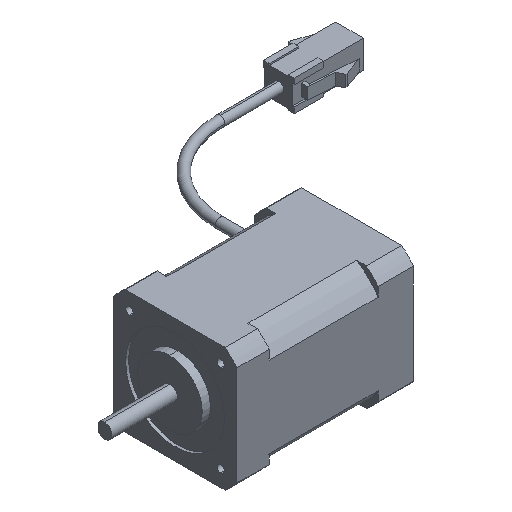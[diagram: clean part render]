
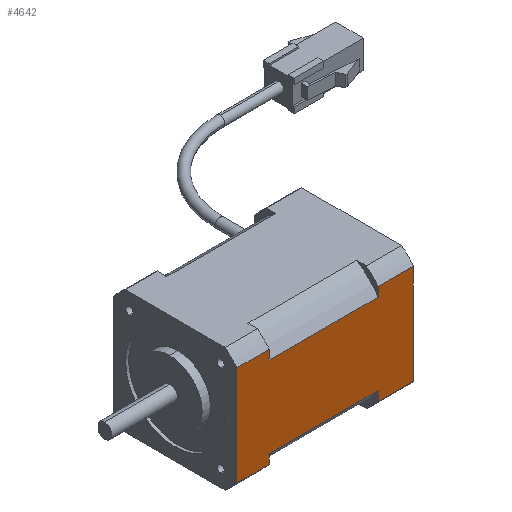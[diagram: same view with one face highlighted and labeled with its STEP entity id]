
A CAD part, isometric view. The second image highlights one B-rep face of the part: STEP entity #4642.
In plain terms, the highlighted planar face has unit normal (0, -1, 0).
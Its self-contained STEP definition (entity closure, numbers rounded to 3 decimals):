
#12 = LINE ( 'NONE', #1259, #6427 ) ;
#28 = CARTESIAN_POINT ( 'NONE',  ( 7.234, 0., 12. ) ) ;
#37 = CARTESIAN_POINT ( 'NONE',  ( 4.029, 0., 60. ) ) ;
#112 = LINE ( 'NONE', #2748, #3316 ) ;
#159 = ORIENTED_EDGE ( 'NONE', *, *, #840, .F. ) ;
#270 = DIRECTION ( 'NONE',  ( 1., 0., 0. ) ) ;
#344 = CARTESIAN_POINT ( 'NONE',  ( 4.029, 0., 49. ) ) ;
#401 = VECTOR ( 'NONE', #1610, 1000. ) ;
#840 = EDGE_CURVE ( 'NONE', #6238, #6813, #5917, .T. ) ;
#851 = EDGE_CURVE ( 'NONE', #6238, #6255, #7185, .T. ) ;
#950 = EDGE_CURVE ( 'NONE', #6255, #4782, #3862, .T. ) ;
#968 = VERTEX_POINT ( 'NONE', #6111 ) ;
#1006 = EDGE_CURVE ( 'NONE', #1549, #4782, #4500, .T. ) ;
#1053 = EDGE_CURVE ( 'NONE', #5946, #1549, #5657, .T. ) ;
#1090 = VECTOR ( 'NONE', #7034, 1000. ) ;
#1193 = CARTESIAN_POINT ( 'NONE',  ( 4.029, 0., 12. ) ) ;
#1202 = EDGE_CURVE ( 'NONE', #968, #5946, #3039, .T. ) ;
#1259 = CARTESIAN_POINT ( 'NONE',  ( 4.029, 0., 60. ) ) ;
#1315 = EDGE_CURVE ( 'NONE', #968, #5442, #5207, .T. ) ;
#1347 = DIRECTION ( 'NONE',  ( 0., 0., -1. ) ) ;
#1416 = EDGE_CURVE ( 'NONE', #4419, #5442, #112, .T. ) ;
#1505 = VERTEX_POINT ( 'NONE', #2228 ) ;
#1549 = VERTEX_POINT ( 'NONE', #1798 ) ;
#1567 = EDGE_CURVE ( 'NONE', #2055, #4419, #2016, .T. ) ;
#1602 = ORIENTED_EDGE ( 'NONE', *, *, #1712, .T. ) ;
#1610 = DIRECTION ( 'NONE',  ( 1., 0., 0. ) ) ;
#1624 = EDGE_CURVE ( 'NONE', #2055, #1505, #12, .T. ) ;
#1658 = CARTESIAN_POINT ( 'NONE',  ( 34.766, 0., 12. ) ) ;
#1712 = EDGE_CURVE ( 'NONE', #1505, #3697, #4970, .T. ) ;
#1730 = ORIENTED_EDGE ( 'NONE', *, *, #950, .T. ) ;
#1760 = EDGE_CURVE ( 'NONE', #6813, #3697, #4429, .T. ) ;
#1798 = CARTESIAN_POINT ( 'NONE',  ( 37.971, 0., 12. ) ) ;
#1859 = CARTESIAN_POINT ( 'NONE',  ( 4.029, 0., 60. ) ) ;
#1929 = VECTOR ( 'NONE', #6282, 1000. ) ;
#2016 = LINE ( 'NONE', #1859, #401 ) ;
#2055 = VERTEX_POINT ( 'NONE', #37 ) ;
#2228 = CARTESIAN_POINT ( 'NONE',  ( 4.029, 0., 49. ) ) ;
#2240 = ORIENTED_EDGE ( 'NONE', *, *, #1416, .F. ) ;
#2490 = ORIENTED_EDGE ( 'NONE', *, *, #1567, .F. ) ;
#2730 = DIRECTION ( 'NONE',  ( 0., 0., -1. ) ) ;
#2747 = ORIENTED_EDGE ( 'NONE', *, *, #1760, .F. ) ;
#2748 = CARTESIAN_POINT ( 'NONE',  ( 37.971, 0., 60. ) ) ;
#2872 = VECTOR ( 'NONE', #7004, 1000. ) ;
#2899 = VECTOR ( 'NONE', #7104, 1000. ) ;
#3010 = CARTESIAN_POINT ( 'NONE',  ( 7.234, 0., 12. ) ) ;
#3039 = LINE ( 'NONE', #4271, #7357 ) ;
#3316 = VECTOR ( 'NONE', #2730, 1000. ) ;
#3341 = DIRECTION ( 'NONE',  ( 1., 0., 0. ) ) ;
#3375 = CARTESIAN_POINT ( 'NONE',  ( 4.029, 0., 49. ) ) ;
#3382 = CARTESIAN_POINT ( 'NONE',  ( 7.234, 0., 49. ) ) ;
#3670 = VECTOR ( 'NONE', #3341, 1000. ) ;
#3697 = VERTEX_POINT ( 'NONE', #3382 ) ;
#3862 = LINE ( 'NONE', #6257, #1929 ) ;
#3975 = EDGE_LOOP ( 'NONE', ( #159, #6074, #1730, #7133, #4475, #4459, #7140, #2240, #2490, #4430, #1602, #2747 ) ) ;
#4222 = DIRECTION ( 'NONE',  ( 0., 0., -1. ) ) ;
#4271 = CARTESIAN_POINT ( 'NONE',  ( 34.766, 0., 12. ) ) ;
#4348 = FACE_OUTER_BOUND ( 'NONE', #3975, .T. ) ;
#4419 = VERTEX_POINT ( 'NONE', #6167 ) ;
#4429 = LINE ( 'NONE', #28, #2899 ) ;
#4430 = ORIENTED_EDGE ( 'NONE', *, *, #1624, .T. ) ;
#4459 = ORIENTED_EDGE ( 'NONE', *, *, #1202, .F. ) ;
#4475 = ORIENTED_EDGE ( 'NONE', *, *, #1053, .F. ) ;
#4500 = LINE ( 'NONE', #5919, #6185 ) ;
#4602 = AXIS2_PLACEMENT_3D ( 'NONE', #6691, #6467, #6414 ) ;
#4642 = ADVANCED_FACE ( 'NONE', ( #4348 ), #6491, .F. ) ;
#4782 = VERTEX_POINT ( 'NONE', #4908 ) ;
#4908 = CARTESIAN_POINT ( 'NONE',  ( 37.971, 0., 0. ) ) ;
#4970 = LINE ( 'NONE', #344, #6293 ) ;
#5207 = LINE ( 'NONE', #3375, #3670 ) ;
#5442 = VERTEX_POINT ( 'NONE', #6906 ) ;
#5457 = CARTESIAN_POINT ( 'NONE',  ( 4.029, 0., 12. ) ) ;
#5514 = DIRECTION ( 'NONE',  ( 1., 0., 0. ) ) ;
#5657 = LINE ( 'NONE', #5457, #7102 ) ;
#5917 = LINE ( 'NONE', #7013, #2872 ) ;
#5919 = CARTESIAN_POINT ( 'NONE',  ( 37.971, 0., 60. ) ) ;
#5943 = DIRECTION ( 'NONE',  ( 0., 0., -1. ) ) ;
#5946 = VERTEX_POINT ( 'NONE', #1658 ) ;
#6074 = ORIENTED_EDGE ( 'NONE', *, *, #851, .T. ) ;
#6111 = CARTESIAN_POINT ( 'NONE',  ( 34.766, 0., 49. ) ) ;
#6167 = CARTESIAN_POINT ( 'NONE',  ( 37.971, 0., 60. ) ) ;
#6185 = VECTOR ( 'NONE', #5943, 1000. ) ;
#6238 = VERTEX_POINT ( 'NONE', #1193 ) ;
#6255 = VERTEX_POINT ( 'NONE', #6469 ) ;
#6257 = CARTESIAN_POINT ( 'NONE',  ( 4.029, 0., 0. ) ) ;
#6282 = DIRECTION ( 'NONE',  ( 1., 0., 0. ) ) ;
#6293 = VECTOR ( 'NONE', #270, 1000. ) ;
#6414 = DIRECTION ( 'NONE',  ( -1., 0., 0. ) ) ;
#6427 = VECTOR ( 'NONE', #1347, 1000. ) ;
#6467 = DIRECTION ( 'NONE',  ( 0., 1., 0. ) ) ;
#6469 = CARTESIAN_POINT ( 'NONE',  ( 4.029, 0., 0. ) ) ;
#6491 = PLANE ( 'NONE',  #4602 ) ;
#6691 = CARTESIAN_POINT ( 'NONE',  ( 4.029, 0., 60. ) ) ;
#6813 = VERTEX_POINT ( 'NONE', #3010 ) ;
#6906 = CARTESIAN_POINT ( 'NONE',  ( 37.971, 0., 49. ) ) ;
#6987 = CARTESIAN_POINT ( 'NONE',  ( 4.029, 0., 60. ) ) ;
#7004 = DIRECTION ( 'NONE',  ( 1., 0., 0. ) ) ;
#7013 = CARTESIAN_POINT ( 'NONE',  ( 4.029, 0., 12. ) ) ;
#7034 = DIRECTION ( 'NONE',  ( 0., 0., -1. ) ) ;
#7102 = VECTOR ( 'NONE', #5514, 1000. ) ;
#7104 = DIRECTION ( 'NONE',  ( 0., 0., 1. ) ) ;
#7133 = ORIENTED_EDGE ( 'NONE', *, *, #1006, .F. ) ;
#7140 = ORIENTED_EDGE ( 'NONE', *, *, #1315, .T. ) ;
#7185 = LINE ( 'NONE', #6987, #1090 ) ;
#7357 = VECTOR ( 'NONE', #4222, 1000. ) ;
